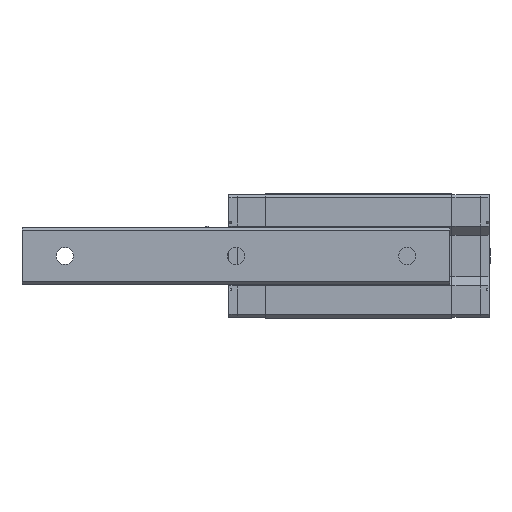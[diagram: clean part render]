
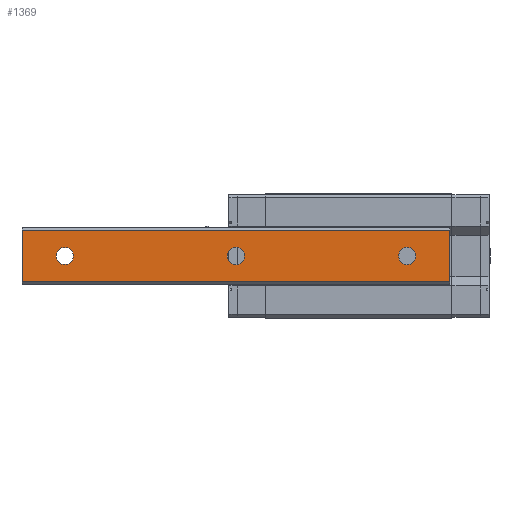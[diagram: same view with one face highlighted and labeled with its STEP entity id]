
A CAD part, front view. The second image highlights one B-rep face of the part: STEP entity #1369.
In plain terms, the highlighted planar face has unit normal (0, -1, 0).
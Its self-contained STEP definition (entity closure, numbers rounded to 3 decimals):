
#1369 = ADVANCED_FACE( '', ( #2794, #2795, #2796, #2797 ), #2798, .F. );
#2794 = FACE_BOUND( '', #4322, .T. );
#2795 = FACE_BOUND( '', #4323, .T. );
#2796 = FACE_BOUND( '', #4324, .T. );
#2797 = FACE_OUTER_BOUND( '', #4325, .T. );
#2798 = PLANE( '', #4326 );
#4322 = EDGE_LOOP( '', ( #7926 ) );
#4323 = EDGE_LOOP( '', ( #7927 ) );
#4324 = EDGE_LOOP( '', ( #7928 ) );
#4325 = EDGE_LOOP( '', ( #7929, #7930, #7931, #7932 ) );
#4326 = AXIS2_PLACEMENT_3D( '', #7933, #7934, #7935 );
#7926 = ORIENTED_EDGE( '', *, *, #9323, .F. );
#7927 = ORIENTED_EDGE( '', *, *, #10351, .F. );
#7928 = ORIENTED_EDGE( '', *, *, #10374, .F. );
#7929 = ORIENTED_EDGE( '', *, *, #9614, .T. );
#7930 = ORIENTED_EDGE( '', *, *, #10270, .F. );
#7931 = ORIENTED_EDGE( '', *, *, #8907, .F. );
#7932 = ORIENTED_EDGE( '', *, *, #10356, .T. );
#7933 = CARTESIAN_POINT( '', ( 75., 0., 9. ) );
#7934 = DIRECTION( '', ( 0., 1., 0. ) );
#7935 = DIRECTION( '', ( 0., 0., 1. ) );
#8907 = EDGE_CURVE( '', #10567, #10569, #10570, .T. );
#9323 = EDGE_CURVE( '', #11295, #11295, #11296, .T. );
#9614 = EDGE_CURVE( '', #11771, #11769, #11772, .T. );
#10270 = EDGE_CURVE( '', #10569, #11769, #12689, .T. );
#10351 = EDGE_CURVE( '', #12782, #12782, #12783, .T. );
#10356 = EDGE_CURVE( '', #10567, #11771, #12789, .T. );
#10374 = EDGE_CURVE( '', #12810, #12810, #12811, .T. );
#10567 = VERTEX_POINT( '', #13022 );
#10569 = VERTEX_POINT( '', #13025 );
#10570 = LINE( '', #13026, #13027 );
#11295 = VERTEX_POINT( '', #14048 );
#11296 = CIRCLE( '', #14049, 3. );
#11769 = VERTEX_POINT( '', #14753 );
#11771 = VERTEX_POINT( '', #14756 );
#11772 = LINE( '', #14757, #14758 );
#12689 = LINE( '', #16178, #16179 );
#12782 = VERTEX_POINT( '', #16303 );
#12783 = CIRCLE( '', #16304, 3. );
#12789 = LINE( '', #16311, #16312 );
#12810 = VERTEX_POINT( '', #16345 );
#12811 = CIRCLE( '', #16346, 3. );
#13022 = CARTESIAN_POINT( '', ( 75., 0., 9. ) );
#13025 = CARTESIAN_POINT( '', ( 75., 0., -9. ) );
#13026 = CARTESIAN_POINT( '', ( 75., 0., 9. ) );
#13027 = VECTOR( '', #16563, 1000. );
#14048 = CARTESIAN_POINT( '', ( 0., 0., -3. ) );
#14049 = AXIS2_PLACEMENT_3D( '', #16987, #16988, #16989 );
#14753 = CARTESIAN_POINT( '', ( -75., 0., -9. ) );
#14756 = CARTESIAN_POINT( '', ( -75., 0., 9. ) );
#14757 = CARTESIAN_POINT( '', ( -75., 0., 9. ) );
#14758 = VECTOR( '', #17290, 1000. );
#16178 = CARTESIAN_POINT( '', ( 75., 0., -9. ) );
#16179 = VECTOR( '', #17895, 1000. );
#16303 = CARTESIAN_POINT( '', ( 60., 0., -3. ) );
#16304 = AXIS2_PLACEMENT_3D( '', #17963, #17964, #17965 );
#16311 = CARTESIAN_POINT( '', ( 75., 0., 9. ) );
#16312 = VECTOR( '', #17970, 1000. );
#16345 = CARTESIAN_POINT( '', ( -60., 0., -3. ) );
#16346 = AXIS2_PLACEMENT_3D( '', #17981, #17982, #17983 );
#16563 = DIRECTION( '', ( 0., 0., -1. ) );
#16987 = CARTESIAN_POINT( '', ( 0., 0., 0. ) );
#16988 = DIRECTION( '', ( 0., -1., 0. ) );
#16989 = DIRECTION( '', ( 0., 0., -1. ) );
#17290 = DIRECTION( '', ( 0., 0., -1. ) );
#17895 = DIRECTION( '', ( -1., 0., 0. ) );
#17963 = CARTESIAN_POINT( '', ( 60., 0., 0. ) );
#17964 = DIRECTION( '', ( 0., -1., 0. ) );
#17965 = DIRECTION( '', ( 0., 0., -1. ) );
#17970 = DIRECTION( '', ( -1., 0., 0. ) );
#17981 = CARTESIAN_POINT( '', ( -60., 0., 0. ) );
#17982 = DIRECTION( '', ( 0., -1., 0. ) );
#17983 = DIRECTION( '', ( 0., 0., -1. ) );
